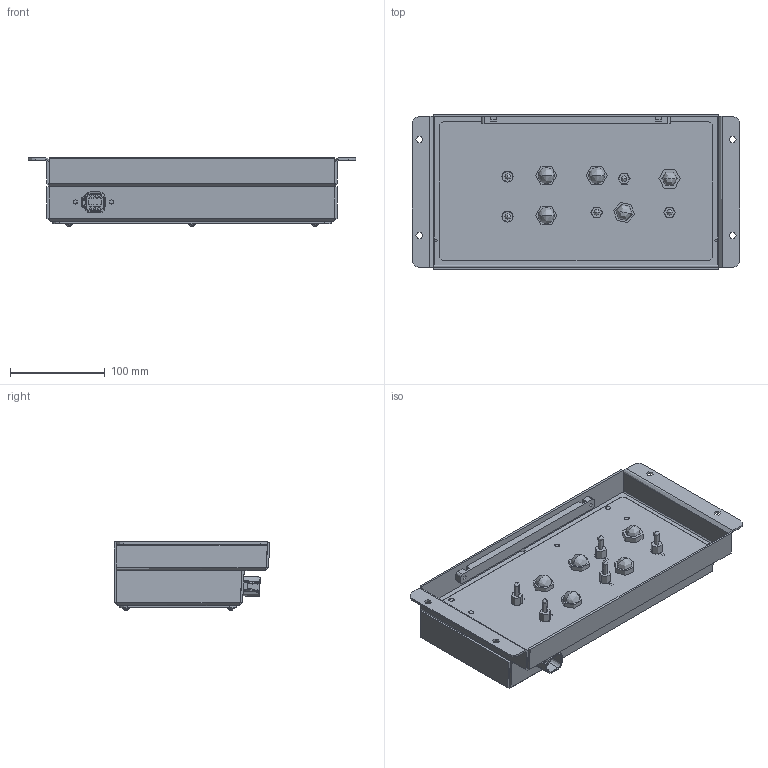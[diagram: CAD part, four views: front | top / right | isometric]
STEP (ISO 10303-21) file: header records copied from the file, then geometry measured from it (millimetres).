
FILE_DESCRIPTION (( 'STEP AP214' ), '1' );
FILE_NAME ('AECU-CPJM-110.STEP', '2019-11-28T15:40:17', ( '' ), ( '' ), 'SwSTEP 2.0', 'SolidWorks 2014', '' );
FILE_SCHEMA (( 'AUTOMOTIVE_DESIGN' ));
Length unit declared in the file: inch
Products named in the file (51): 92949A194_18-8 SS BUTTON HEAD HEX DRIVE SCREW; part71^AECU-CPJM-110; 93580A122_PEM R  PRESS-IN STUD; 92949A194_18-8 SS BUTTON HEAD HEX DRIVE SCREW_92949A194; 94020A323_ALUMINUM HEAVY-DUTY RIVET NUT_94020A323; part20^AECU-CPJM-110; Solico 66 Panel light; Light bar; Part16^Light bar; c-dt04-6p-cl09-99-3d; 93580A122_PEM R  PRESS-IN STUD_93580A122; Part8^AECU-CPJM-110; Saffron Toggle switch; 94020A323_ALUMINUM HEAVY-DUTY RIVET NUT; Solico 66 Panel light red; Solico 66 Panel light green; Part3^AECU-CPJM-110; Left Side Jack Control Switch Panel Label; AECU-CPJM-110
Assembly tree (51 placements, depth 3):
  part71^AECU-CPJM-110
  Solico 66 Panel light
  Solico 66 Panel light
  c-dt04-6p-cl09-99-3d
  Part8^AECU-CPJM-110
Bounding box: 346.46 x 164.59 x 72.03 mm (x, y, z)
Volume: 524147.2 mm3; surface area: 471474.9 mm2
Topology: 33 solids, 33 shells, 4240 faces, 11147 edges, 6879 vertices
Faces by surface type: plane 2702, cylinder 882, cone 354, bspline 175, torus 99, sphere 28
Entity records: 78199 total; most frequent: CARTESIAN_POINT 29401, ORIENTED_EDGE 8246, DIRECTION 7552, EDGE_CURVE 4123, VERTEX_POINT 2599, AXIS2_PLACEMENT_3D 2520, LINE 2512, VECTOR 2512
